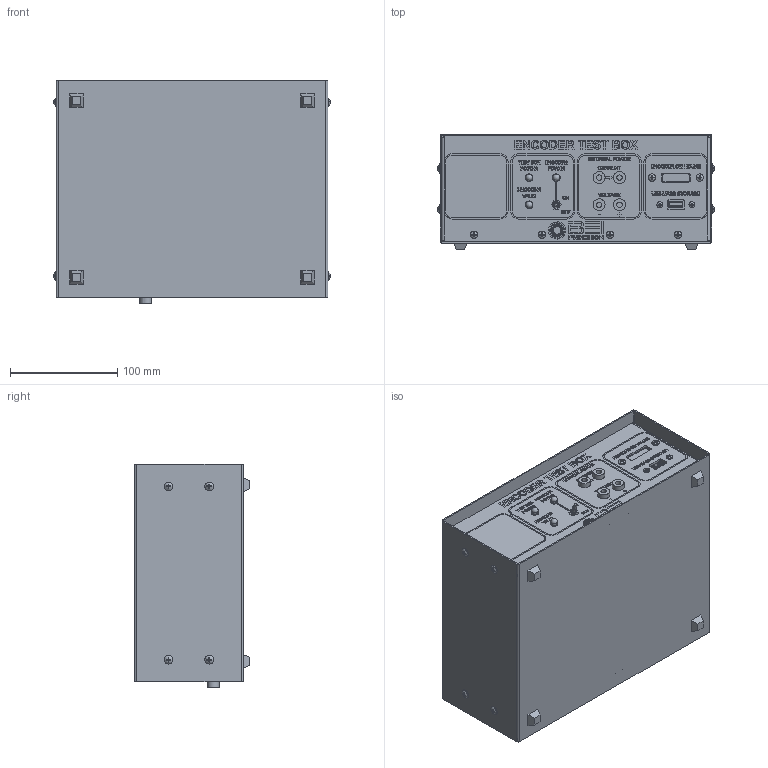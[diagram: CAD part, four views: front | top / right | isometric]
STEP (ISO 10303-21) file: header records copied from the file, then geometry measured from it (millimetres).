
FILE_DESCRIPTION (( 'STEP AP214' ), '1' );
FILE_NAME ('200-6643-XXX Encoder Test Box.STEP', '2020-01-14T14:06:13', ( '' ), ( '' ), 'SwSTEP 2.0', 'SolidWorks 2019', '' );
FILE_SCHEMA (( 'AUTOMOTIVE_DESIGN' ));
Length unit declared in the file: inch
Products named in the file (1): 200-6643-XXX Encoder Test Box
Bounding box: 258.29 x 107.44 x 208.74 mm (x, y, z)
Volume: 4617867.5 mm3; surface area: 244380.5 mm2
Topology: 1 solids, 48 shells, 5598 faces, 14612 edges, 9689 vertices
Faces by surface type: plane 3473, bspline 1171, cylinder 783, cone 142, sphere 19, torus 10
Full cylindrical faces by diameter (mm): 0.6 x2, 0.889 x50, 1.143 x62, 1.219 x26, 1.587 x1, 2.083 x25, 2.261 x8, 2.5 x1, 2.594 x1, 2.845 x16, 3.175 x12, 3.25 x2, 3.302 x4, 3.4 x2, 3.5 x1, 3.505 x18, 3.81 x2, 4.009 x1, 4.166 x1, 4.191 x1, 4.305 x8, 4.496 x1, 5.08 x6, 5.156 x8, 5.562 x6, 5.69 x2, 6.096 x3, 6.3 x2, 6.35 x1, 6.853 x10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
Entity records: 300892 total; most frequent: CARTESIAN_POINT 102592, ORIENTED_EDGE 27974, DIRECTION 22009, EDGE_CURVE 13987, LINE 9471, VECTOR 9471, VERTEX_POINT 9450, EDGE_LOOP 6675
